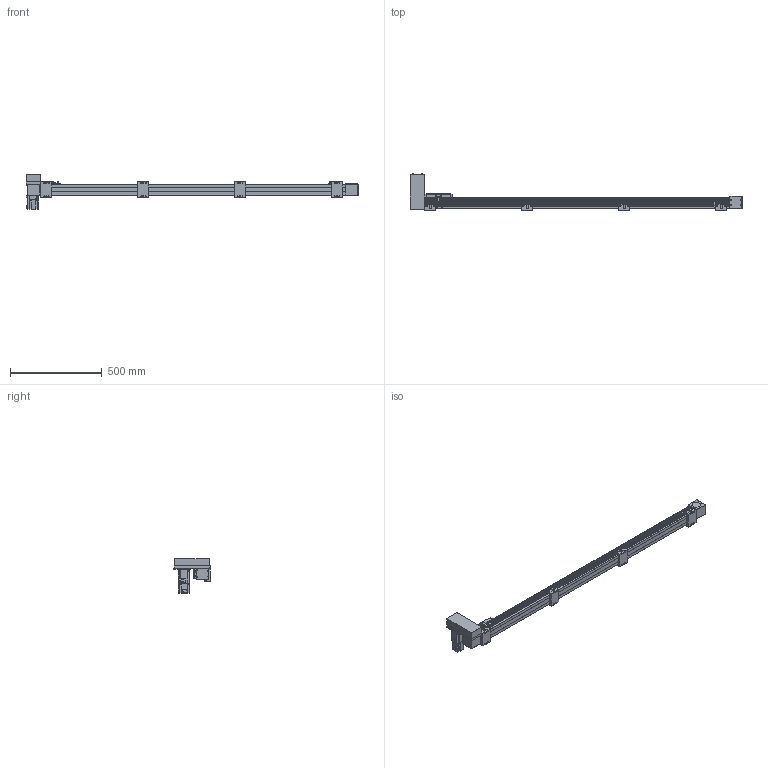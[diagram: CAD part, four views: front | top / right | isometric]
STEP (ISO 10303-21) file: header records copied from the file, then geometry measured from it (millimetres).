
FILE_DESCRIPTION(/* description */ ('STEP AP214'),/* implementation_level */ '2;1');
FILE_NAME(/* name */ 'SK60-P13-S1500-RU-T40-C1-N(0)',/* time_stamp */ '2023-04-06T05:04:19+02:00',/* author */ ('License CC BY-ND 4.0'),/* organization */ ('CADENAS'),/* preprocessor_version */ 'ST-DEVELOPER v19.3',/* originating_system */ 'PARTsolutions',/* authorisation */ ' ');
FILE_SCHEMA (('AUTOMOTIVE_DESIGN {1 0 10303 214 3 1 1}'));
Length unit declared in the file: millimetre
Products named in the file (10): SK60-P13-S1500-RU-T40-C1-N(0); PSC140-sensor; SK60-S450_seat; SK60-S450-BL-C1_slider; SK60_body3; SK60_body6; SK60-BL_body2; T40-p1; SK60-RU_fb; SK60-S1500-RU-C1_body
Assembly tree (18 placements, depth 2):
  SK60-P13-S1500-RU-T40-C1-N(0)
    PSC140-sensor  x3
    SK60-S450_seat  x4
    SK60-S450-BL-C1_slider
    SK60_body3  x3
    SK60_body6  x2
    SK60-BL_body2  x2
    T40-p1
    SK60-RU_fb
    SK60-S1500-RU-C1_body
Bounding box: 1805.5 x 201 x 189.7 mm (x, y, z)
Volume: 7367551.4 mm3; surface area: 905013.5 mm2
Topology: 18 solids, 18 shells, 898 faces, 2244 edges, 1477 vertices
Faces by surface type: plane 572, cylinder 294, cone 30, torus 2
Full cylindrical faces by diameter (mm): 2.8 x3, 3.3 x4, 4 x2, 4.5 x30, 4.6 x3, 4.917 x24, 5 x6, 5.478 x4, 5.5 x27, 6.5 x8, 7 x2, 8 x4, 8.5 x4, 9.988 x4, 10 x16, 14 x1, 47 x3, 50 x2
Entity records: 18671 total; most frequent: DIRECTION 3188, CARTESIAN_POINT 3152, ORIENTED_EDGE 2940, EDGE_CURVE 1470, AXIS2_PLACEMENT_3D 1070, LINE 1048, VECTOR 1048, VERTEX_POINT 1034
